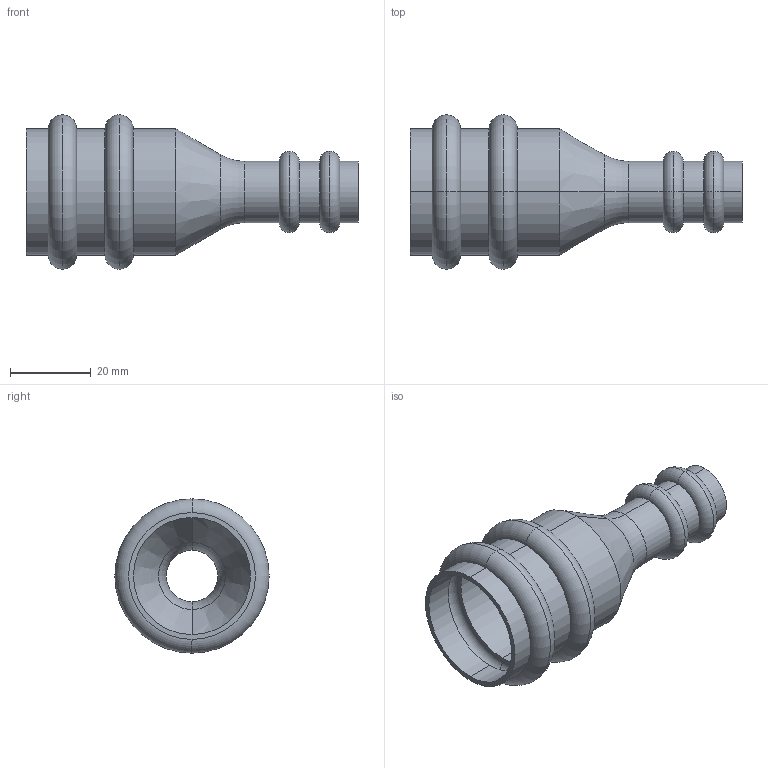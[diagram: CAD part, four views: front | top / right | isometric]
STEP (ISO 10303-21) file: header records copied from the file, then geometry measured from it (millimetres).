
FILE_DESCRIPTION(('starvars output'),'1');
FILE_NAME('cv20240422105346000011624.stp','10:53:47 2024/04/22',('Thomas Industrial Network Germany GmbH'),(' '),'Spatial InterOp 3D',' ',' ');
FILE_SCHEMA(('AUTOMOTIVE_DESIGN { 1 0 10303 214 3 1 1 }'));
Length unit declared in the file: millimetre
Products named in the file (1): 1
Bounding box: 82 x 38.1 x 38.1 mm (x, y, z)
Volume: 9053.8 mm3; surface area: 15137.1 mm2
Topology: 1 solids, 1 shells, 80 faces, 160 edges, 96 vertices
Faces by surface type: torus 36, cylinder 24, plane 16, cone 4
Entity records: 2788 total; most frequent: DIRECTION 454, CARTESIAN_POINT 337, ORIENTED_EDGE 320, AXIS2_PLACEMENT_3D 213, EDGE_CURVE 160, CIRCLE 132, EDGE_LOOP 96, VERTEX_POINT 96
